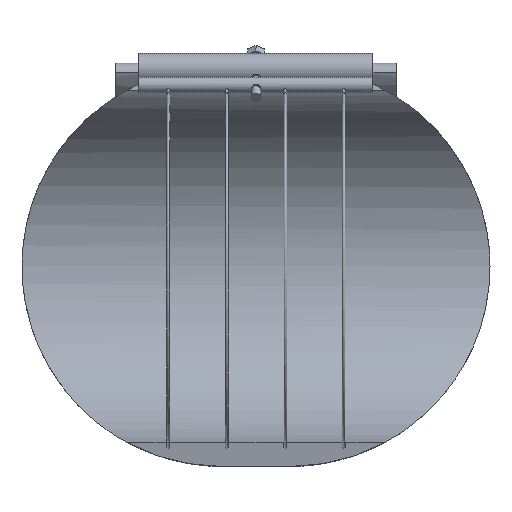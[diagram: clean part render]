
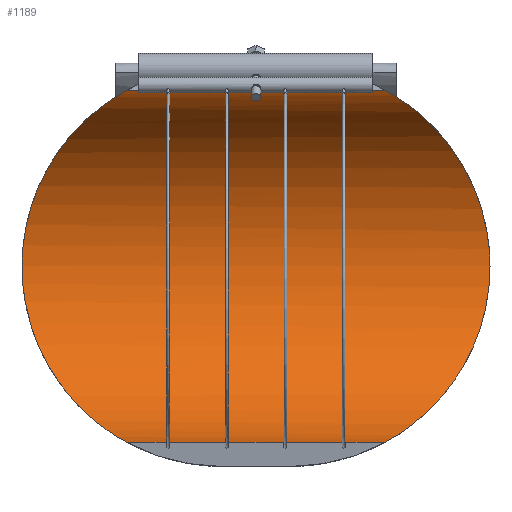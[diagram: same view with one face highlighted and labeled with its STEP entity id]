
A CAD part, front view. The second image highlights one B-rep face of the part: STEP entity #1189.
In plain terms, the highlighted cylindrical face has radius 112.5 mm (diameter 225 mm), a partial arc.
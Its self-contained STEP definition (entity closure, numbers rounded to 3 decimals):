
#125=FACE_OUTER_BOUND('',#203,.T.);
#203=EDGE_LOOP('',(#1060,#1061,#1062,#1063,#1064,#1065,#1066,#1067,#1068,
#1069));
#254=B_SPLINE_CURVE_WITH_KNOTS('',3,(#2686,#2687,#2688,#2689,#2690,#2691,
#2692,#2693,#2694,#2695,#2696,#2697,#2698,#2699,#2700,#2701,#2702,#2703,
#2704,#2705),.UNSPECIFIED.,.F.,.F.,(4,2,2,2,2,2,2,2,2,4),(39.695,
40.086,41.303,42.521,44.955,47.39,
49.662,51.933,54.205,56.477),
 .UNSPECIFIED.);
#255=B_SPLINE_CURVE_WITH_KNOTS('',3,(#2706,#2707,#2708,#2709,#2710,#2711,
#2712,#2713,#2714,#2715,#2716,#2717,#2718,#2719,#2720,#2721,#2722,#2723,
#2724,#2725),.UNSPECIFIED.,.F.,.F.,(4,2,2,2,2,2,2,2,2,4),(56.477,
58.749,61.021,63.293,65.565,67.999,
70.434,71.651,72.868,73.259),
 .UNSPECIFIED.);
#260=B_SPLINE_CURVE_WITH_KNOTS('',3,(#2837,#2838,#2839,#2840,#2841,#2842,
#2843,#2844,#2845,#2846,#2847,#2848,#2849,#2850,#2851,#2852,#2853,#2854,
#2855,#2856),.UNSPECIFIED.,.F.,.F.,(4,2,2,2,2,2,2,2,2,4),(2.044,
2.435,3.652,4.869,7.304,9.738,
12.01,14.282,16.554,18.826),
 .UNSPECIFIED.);
#261=B_SPLINE_CURVE_WITH_KNOTS('',3,(#2858,#2859,#2860,#2861,#2862,#2863,
#2864,#2865,#2866,#2867,#2868,#2869,#2870,#2871,#2872,#2873,#2874,#2875,
#2876,#2877),.UNSPECIFIED.,.F.,.F.,(4,2,2,2,2,2,2,2,2,4),(18.826,
21.098,23.369,25.641,27.913,30.348,
32.782,34.,35.217,35.608),
 .UNSPECIFIED.);
#338=LINE('',#1983,#399);
#339=LINE('',#1986,#400);
#340=LINE('',#1989,#401);
#341=LINE('',#1991,#402);
#342=LINE('',#1992,#403);
#386=LINE('',#2919,#447);
#399=VECTOR('',#1398,10.);
#400=VECTOR('',#1401,10.);
#401=VECTOR('',#1404,10.);
#402=VECTOR('',#1407,10.);
#403=VECTOR('',#1408,10.);
#447=VECTOR('',#1648,10.);
#475=VERTEX_POINT('',#1971);
#477=VERTEX_POINT('',#1976);
#479=VERTEX_POINT('',#1980);
#480=VERTEX_POINT('',#1982);
#481=VERTEX_POINT('',#1985);
#482=VERTEX_POINT('',#1988);
#552=VERTEX_POINT('',#2683);
#553=VERTEX_POINT('',#2685);
#558=VERTEX_POINT('',#2836);
#559=VERTEX_POINT('',#2857);
#600=EDGE_CURVE('',#480,#479,#338,.T.);
#602=EDGE_CURVE('',#481,#480,#339,.T.);
#604=EDGE_CURVE('',#482,#481,#340,.T.);
#606=EDGE_CURVE('',#475,#482,#341,.T.);
#607=EDGE_CURVE('',#477,#475,#342,.T.);
#725=EDGE_CURVE('',#552,#553,#254,.T.);
#726=EDGE_CURVE('',#553,#479,#255,.T.);
#731=EDGE_CURVE('',#477,#558,#260,.T.);
#732=EDGE_CURVE('',#558,#559,#261,.T.);
#736=EDGE_CURVE('',#552,#559,#386,.T.);
#1060=ORIENTED_EDGE('',*,*,#731,.F.);
#1061=ORIENTED_EDGE('',*,*,#607,.T.);
#1062=ORIENTED_EDGE('',*,*,#606,.T.);
#1063=ORIENTED_EDGE('',*,*,#604,.T.);
#1064=ORIENTED_EDGE('',*,*,#602,.T.);
#1065=ORIENTED_EDGE('',*,*,#600,.T.);
#1066=ORIENTED_EDGE('',*,*,#726,.F.);
#1067=ORIENTED_EDGE('',*,*,#725,.F.);
#1068=ORIENTED_EDGE('',*,*,#736,.T.);
#1069=ORIENTED_EDGE('',*,*,#732,.F.);
#1130=CYLINDRICAL_SURFACE('',#1337,112.5);
#1189=ADVANCED_FACE('',(#125),#1130,.F.);
#1337=AXIS2_PLACEMENT_3D('',#2918,#1646,#1647);
#1398=DIRECTION('',(1.,0.,0.));
#1401=DIRECTION('',(1.,0.,0.));
#1404=DIRECTION('',(1.,0.,0.));
#1407=DIRECTION('',(1.,0.,0.));
#1408=DIRECTION('',(1.,0.,0.));
#1646=DIRECTION('center_axis',(1.,0.,0.));
#1647=DIRECTION('ref_axis',(0.,1.,0.));
#1648=DIRECTION('',(-1.,0.,0.));
#1971=CARTESIAN_POINT('',(-55.313,19.535,-110.791));
#1976=CARTESIAN_POINT('',(-81.68,19.535,-110.791));
#1980=CARTESIAN_POINT('',(81.68,19.535,-110.791));
#1982=CARTESIAN_POINT('',(55.313,19.535,-110.791));
#1983=CARTESIAN_POINT('',(0.,19.535,-110.791));
#1985=CARTESIAN_POINT('',(18.438,19.535,-110.791));
#1986=CARTESIAN_POINT('',(0.,19.535,-110.791));
#1988=CARTESIAN_POINT('',(-18.438,19.535,-110.791));
#1989=CARTESIAN_POINT('',(0.,19.535,-110.791));
#1991=CARTESIAN_POINT('',(0.,19.535,-110.791));
#1992=CARTESIAN_POINT('',(0.,19.535,-110.791));
#2683=CARTESIAN_POINT('',(81.68,19.535,110.791));
#2685=CARTESIAN_POINT('',(147.5,112.5,0.));
#2686=CARTESIAN_POINT('Ctrl Pts',(81.68,19.535,110.791));
#2687=CARTESIAN_POINT('Ctrl Pts',(82.066,20.727,110.581));
#2688=CARTESIAN_POINT('Ctrl Pts',(82.48,21.91,110.352));
#2689=CARTESIAN_POINT('Ctrl Pts',(84.292,26.741,109.34));
#2690=CARTESIAN_POINT('Ctrl Pts',(85.909,30.313,108.401));
#2691=CARTESIAN_POINT('Ctrl Pts',(89.472,37.306,106.198));
#2692=CARTESIAN_POINT('Ctrl Pts',(91.418,40.725,104.933));
#2693=CARTESIAN_POINT('Ctrl Pts',(97.548,50.756,100.662));
#2694=CARTESIAN_POINT('Ctrl Pts',(102.008,57.129,97.182));
#2695=CARTESIAN_POINT('Ctrl Pts',(110.84,69.04,89.115));
#2696=CARTESIAN_POINT('Ctrl Pts',(115.215,74.574,84.525));
#2697=CARTESIAN_POINT('Ctrl Pts',(123.03,84.193,74.906));
#2698=CARTESIAN_POINT('Ctrl Pts',(126.786,88.677,69.597));
#2699=CARTESIAN_POINT('Ctrl Pts',(133.679,96.77,57.817));
#2700=CARTESIAN_POINT('Ctrl Pts',(136.813,100.38,51.345));
#2701=CARTESIAN_POINT('Ctrl Pts',(141.999,106.305,37.573));
#2702=CARTESIAN_POINT('Ctrl Pts',(144.055,108.625,30.257));
#2703=CARTESIAN_POINT('Ctrl Pts',(146.806,111.723,15.257));
#2704=CARTESIAN_POINT('Ctrl Pts',(147.5,112.5,7.573));
#2705=CARTESIAN_POINT('Ctrl Pts',(147.5,112.5,0.));
#2706=CARTESIAN_POINT('Ctrl Pts',(147.5,112.5,0.));
#2707=CARTESIAN_POINT('Ctrl Pts',(147.5,112.5,-7.573));
#2708=CARTESIAN_POINT('Ctrl Pts',(146.806,111.723,-15.257));
#2709=CARTESIAN_POINT('Ctrl Pts',(144.055,108.625,-30.257));
#2710=CARTESIAN_POINT('Ctrl Pts',(141.999,106.305,-37.573));
#2711=CARTESIAN_POINT('Ctrl Pts',(136.813,100.38,-51.345));
#2712=CARTESIAN_POINT('Ctrl Pts',(133.679,96.77,-57.817));
#2713=CARTESIAN_POINT('Ctrl Pts',(126.786,88.677,-69.597));
#2714=CARTESIAN_POINT('Ctrl Pts',(123.03,84.193,-74.906));
#2715=CARTESIAN_POINT('Ctrl Pts',(115.215,74.574,-84.525));
#2716=CARTESIAN_POINT('Ctrl Pts',(110.84,69.04,-89.115));
#2717=CARTESIAN_POINT('Ctrl Pts',(102.008,57.129,-97.182));
#2718=CARTESIAN_POINT('Ctrl Pts',(97.548,50.756,-100.662));
#2719=CARTESIAN_POINT('Ctrl Pts',(91.418,40.725,-104.933));
#2720=CARTESIAN_POINT('Ctrl Pts',(89.472,37.306,-106.198));
#2721=CARTESIAN_POINT('Ctrl Pts',(85.909,30.313,-108.401));
#2722=CARTESIAN_POINT('Ctrl Pts',(84.292,26.741,-109.34));
#2723=CARTESIAN_POINT('Ctrl Pts',(82.48,21.91,-110.352));
#2724=CARTESIAN_POINT('Ctrl Pts',(82.066,20.727,-110.581));
#2725=CARTESIAN_POINT('Ctrl Pts',(81.68,19.535,-110.791));
#2836=CARTESIAN_POINT('',(-147.5,112.5,0.));
#2837=CARTESIAN_POINT('Ctrl Pts',(-81.68,19.535,-110.791));
#2838=CARTESIAN_POINT('Ctrl Pts',(-82.066,20.727,-110.581));
#2839=CARTESIAN_POINT('Ctrl Pts',(-82.48,21.91,-110.352));
#2840=CARTESIAN_POINT('Ctrl Pts',(-84.292,26.741,-109.34));
#2841=CARTESIAN_POINT('Ctrl Pts',(-85.909,30.313,-108.401));
#2842=CARTESIAN_POINT('Ctrl Pts',(-89.472,37.306,-106.198));
#2843=CARTESIAN_POINT('Ctrl Pts',(-91.418,40.725,-104.933));
#2844=CARTESIAN_POINT('Ctrl Pts',(-97.548,50.756,-100.662));
#2845=CARTESIAN_POINT('Ctrl Pts',(-102.008,57.129,-97.182));
#2846=CARTESIAN_POINT('Ctrl Pts',(-110.84,69.04,-89.115));
#2847=CARTESIAN_POINT('Ctrl Pts',(-115.215,74.574,-84.525));
#2848=CARTESIAN_POINT('Ctrl Pts',(-123.03,84.193,-74.906));
#2849=CARTESIAN_POINT('Ctrl Pts',(-126.786,88.677,-69.597));
#2850=CARTESIAN_POINT('Ctrl Pts',(-133.679,96.77,-57.817));
#2851=CARTESIAN_POINT('Ctrl Pts',(-136.813,100.38,-51.345));
#2852=CARTESIAN_POINT('Ctrl Pts',(-141.999,106.305,-37.573));
#2853=CARTESIAN_POINT('Ctrl Pts',(-144.055,108.625,-30.257));
#2854=CARTESIAN_POINT('Ctrl Pts',(-146.806,111.723,-15.257));
#2855=CARTESIAN_POINT('Ctrl Pts',(-147.5,112.5,-7.573));
#2856=CARTESIAN_POINT('Ctrl Pts',(-147.5,112.5,0.));
#2857=CARTESIAN_POINT('',(-81.68,19.535,110.791));
#2858=CARTESIAN_POINT('Ctrl Pts',(-147.5,112.5,0.));
#2859=CARTESIAN_POINT('Ctrl Pts',(-147.5,112.5,7.573));
#2860=CARTESIAN_POINT('Ctrl Pts',(-146.806,111.723,15.257));
#2861=CARTESIAN_POINT('Ctrl Pts',(-144.055,108.625,30.257));
#2862=CARTESIAN_POINT('Ctrl Pts',(-141.999,106.305,37.573));
#2863=CARTESIAN_POINT('Ctrl Pts',(-136.813,100.38,51.345));
#2864=CARTESIAN_POINT('Ctrl Pts',(-133.679,96.77,57.817));
#2865=CARTESIAN_POINT('Ctrl Pts',(-126.786,88.677,69.597));
#2866=CARTESIAN_POINT('Ctrl Pts',(-123.03,84.193,74.906));
#2867=CARTESIAN_POINT('Ctrl Pts',(-115.215,74.574,84.525));
#2868=CARTESIAN_POINT('Ctrl Pts',(-110.84,69.04,89.115));
#2869=CARTESIAN_POINT('Ctrl Pts',(-102.008,57.129,97.182));
#2870=CARTESIAN_POINT('Ctrl Pts',(-97.548,50.756,100.662));
#2871=CARTESIAN_POINT('Ctrl Pts',(-91.418,40.725,104.933));
#2872=CARTESIAN_POINT('Ctrl Pts',(-89.472,37.306,106.198));
#2873=CARTESIAN_POINT('Ctrl Pts',(-85.909,30.313,108.401));
#2874=CARTESIAN_POINT('Ctrl Pts',(-84.292,26.741,109.34));
#2875=CARTESIAN_POINT('Ctrl Pts',(-82.48,21.91,110.352));
#2876=CARTESIAN_POINT('Ctrl Pts',(-82.066,20.727,110.581));
#2877=CARTESIAN_POINT('Ctrl Pts',(-81.68,19.535,110.791));
#2918=CARTESIAN_POINT('Origin',(0.,0.,0.));
#2919=CARTESIAN_POINT('',(0.,19.535,110.791));
